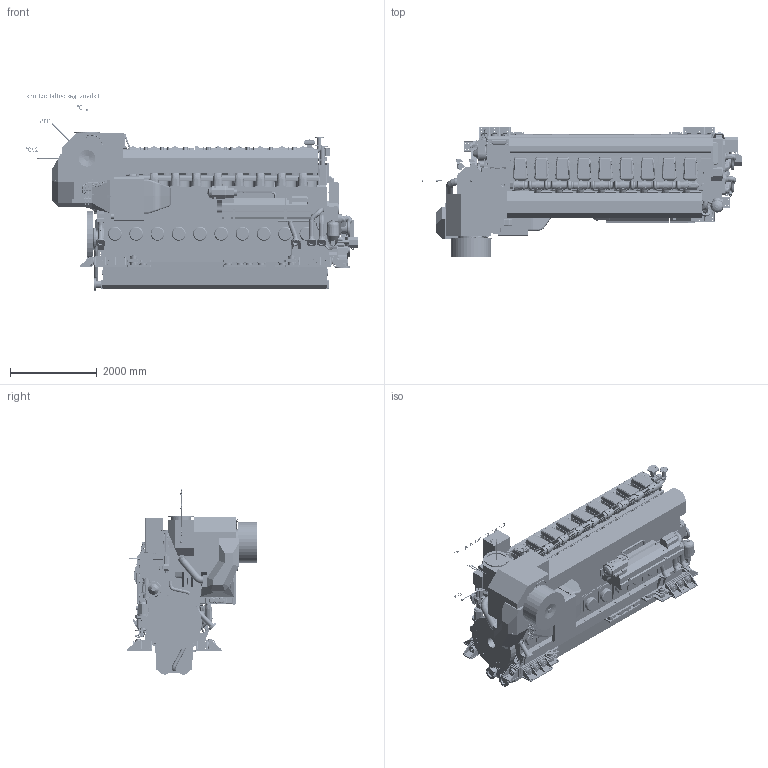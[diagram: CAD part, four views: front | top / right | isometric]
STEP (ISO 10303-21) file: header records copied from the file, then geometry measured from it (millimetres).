
FILE_DESCRIPTION(/* description */ (''),/* implementation_level */ '2;1');
FILE_NAME(/* name */ 'DAAF385173_A.stp',/* time_stamp */ '2021-12-30T14:43:05+02:00',/* author */ (''),/* organization */ (''),/* preprocessor_version */ 'ST-DEVELOPER v16.7',/* originating_system */ 'SIEMENS PLM Software NX 1915',/* authorisation */ '');
FILE_SCHEMA (('AUTOMOTIVE_DESIGN { 1 0 10303 214 3 1 1 1 }'));
Products named in the file (67): 001860179-A_HOLLOW BAR; PAAC000444--_HEXAGON HEAD BOLT; PABA279509--_Flywheel L3X; PAAF247479--_FRAME; PAAF331859--_CLEANING DEVICE; PAAF087114--_LEAK FUEL SYSTEM; PAAF906213--_NITROGEN GAS PIPE; PAAF093585--_STARTING AIR PIPES; PAAF087111--_LEAK FUEL SYSTEM; PAAF909498--_LOCAL CONTROL PANEL; PAAF906204--_SHUT-DOWN MECHANISM; PAAF895907--_COVERS; PAAF270351--_EQUIPMENT; PAAF975926--_main gas admission valve; PABA181135--_LT-water from stand-by pump; PAAF975946--_gas pipe between cylinders; PABA066964--_Double wall gas vent system; PAAF675626--_OIL MIST DETECTOR; PAAF066775--_INSULATING BOX; PABA036864--_Cylinder heads multiducts cylinder liner; PAAF976976--_Cylinder head covers 9L; PAAF978290--_Covers top shields 9L; PAAF977365--_Electrical equipment for side cover; PAAF063771--_COVERS; PABA065852--_Gas feed pipe from roof; PAAF679607--_AIR INLET BOX; PAAF906214--_ELECTRICAL EQUIPMENT; PAAF087082--_A_LEAK FUEL PIPES; PAAF261809--_LUBRICATING OIL FILTER; PAAF243662--_LUBE OIL MODULE; PAAF243393--_GOVERNOR; PAAF497278--_LUBRICATING OIL PIPES; PAAF243623--_FUEL PIPES; PAAF078622--_LT-WATER PIPES; PAAF247485--_LUBRICATING OIL PUMP; PAAF078688--_PILOT FUEL LINE; PAAF243686--_CENTRIFUGAL FILTER; PAAF078125--_A_COVER_main_fuel_pipes; PAAF243352--_OIL PIPE; PAAF111190-A_LUBE OIL PIPES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
Assembly tree (87 placements, depth 4):
  DAAF385173_A-Outline drawing
    PABA330993--_Turbo options
    PABA279467--_W9L34DFC-TCD-DRY
      PAAF074478--_DRY SUMP
      PAAF299715--_TURBOCHARGER BRACKET
      PAAF093490--_LUBE OIL PIPES
      PAAF238216--_CRANKSHAFT
      PAAF074388--_END COVER
      PAAF415151--_TURBOCHARGER
      PAAF297128--_COVERS
      PABA073837--_WASTEGATE PIPE ABB155 IN FWE 0 AND 90 DEG
      PAAF093819--_WATER CONNECTION
      PAAF271372--_MOTOR
      PAAF078074--_TURNING DEVICE
      PAAF087122--_LEAK FUEL PIPES
      PAAF087136--_LUBRICATING OIL PIPES
      PAAF193483--_BOOSTER MOTOR
      PAAF243671--_PUMP COVER
      PAAF291916--_INTERMEDIATE GEAR
      PAAF078241--_COVER
      PAAF078236--_COVER
      PAAF243367--_GOVERNOR
      PAAF063633--_ENGINE BLOCK
      PAAF078620--_LT-WATER PIPES
      PAAF064319--_COVERS
      PAAF111190-A_LUBE OIL PIPES
      PAAF243352--_OIL PIPE
      PAAF078125--_A_COVER_main_fuel_pipes
      PAAF243686--_CENTRIFUGAL FILTER
      PAAF078688--_PILOT FUEL LINE
      PAAF247485--_LUBRICATING OIL PUMP
      PAAF078622--_LT-WATER PIPES
      PAAF243623--_FUEL PIPES
      PAAF497278--_LUBRICATING OIL PIPES
      PAAF243393--_GOVERNOR
      PAAF243662--_LUBE OIL MODULE
      PAAF261809--_LUBRICATING OIL FILTER
      PAAF087082--_A_LEAK FUEL PIPES
      PAAF906214--_ELECTRICAL EQUIPMENT
      PAAF679607--_AIR INLET BOX
      PABA065852--_Gas feed pipe from roof
      PAAF063771--_COVERS
      PAAF977365--_Electrical equipment for side cover
      PAAF978290--_Covers top shields 9L
      PAAF976976--_Cylinder head covers 9L
      PABA036864--_Cylinder heads multiducts cylinder liner
      PAAF066775--_INSULATING BOX
      PAAF675626--_OIL MIST DETECTOR
      PABA066964--_Double wall gas vent system
      PAAF975946--_gas pipe between cylinders  x8
      PABA181135--_LT-water from stand-by pump
      PAAF975926--_main gas admission valve  x9
      PAAF270351--_EQUIPMENT
      PAAF895907--_COVERS
      PAAF906204--_SHUT-DOWN MECHANISM
      PAAF909498--_LOCAL CONTROL PANEL
      PAAF087111--_LEAK FUEL SYSTEM
      PAAF093585--_STARTING AIR PIPES
      PAAF906213--_NITROGEN GAS PIPE
      PAAF087114--_LEAK FUEL SYSTEM
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Bounding box: 7648.02 x 3007.57 x 4544.58 mm (x, y, z)
Volume: 19256062121.2 mm3; surface area: 277865935.8 mm2
Topology: 729 solids, 738 shells, 22181 faces, 54097 edges, 34659 vertices
Faces by surface type: plane 11680, cylinder 5689, bspline 2159, cone 1562, extrusion 549, torus 495, sphere 42, revolution 5
Full cylindrical faces by diameter (mm): 1 x9, 3 x3, 4 x2, 6 x8, 8 x54, 9.6 x1, 10 x5, 10.164 x1, 10.227 x1, 11 x6, 11.908 x1, 12 x23, 12.095 x1, 12.3 x1, 13 x3, 13.2 x4, 13.5 x4, 14 x217, 15 x20, 15.5 x4, 15.6 x4, 15.7 x4, 16 x113, 16.2 x3, 17 x1, 18 x488, 18.5 x2, 19.869 x2, 20 x20, 21 x32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
Entity records: 777592 total; most frequent: CARTESIAN_POINT 293641, ORIENTED_EDGE 95498, DIRECTION 94550, EDGE_CURVE 47749, AXIS2_PLACEMENT_3D 33189, VERTEX_POINT 32503, VECTOR 28167, EDGE_LOOP 27809
